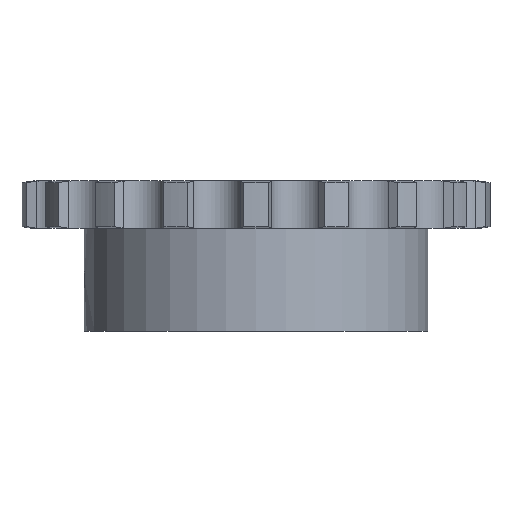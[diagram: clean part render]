
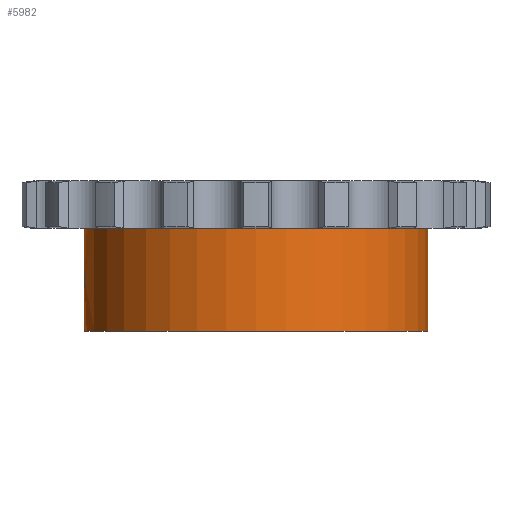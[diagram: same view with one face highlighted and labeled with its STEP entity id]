
A CAD part, front view. The second image highlights one B-rep face of the part: STEP entity #5982.
In plain terms, the highlighted cylindrical face has radius 40 mm (diameter 80 mm), a partial arc.
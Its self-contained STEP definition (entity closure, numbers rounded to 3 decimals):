
#1239=CARTESIAN_POINT('',(0.,0.,-5.55));
#1240=DIRECTION('',(0.,0.,1.));
#1241=DIRECTION('',(-1.,0.,0.));
#1242=AXIS2_PLACEMENT_3D('',#1239,#1240,#1241);
#2880=CARTESIAN_POINT('',(-40.,0.,
-14.5));
#2903=DIRECTION('',(0.,0.,1.));
#2904=VECTOR('',#2903,23.9);
#2905=CARTESIAN_POINT('',(40.,0.,-29.45));
#2906=LINE('',#2905,#2904);
#3024=CARTESIAN_POINT('',(-40.,0.,
-14.5));
#3025=CARTESIAN_POINT('',(-40.,-0.126,
-14.5));
#3026=CARTESIAN_POINT('',(-39.999,-0.405,
-14.517));
#3027=CARTESIAN_POINT('',(-39.992,-0.831,
-14.602));
#3028=CARTESIAN_POINT('',(-39.981,-1.265,
-14.758));
#3029=CARTESIAN_POINT('',(-39.966,-1.669,
-14.976));
#3030=CARTESIAN_POINT('',(-39.949,-2.033,
-15.25));
#3031=CARTESIAN_POINT('',(-39.931,-2.351,
-15.573));
#3032=CARTESIAN_POINT('',(-39.915,-2.617,
-15.94));
#3033=CARTESIAN_POINT('',(-39.9,-2.824,
-16.343));
#3034=CARTESIAN_POINT('',(-39.89,-2.967,
-16.77));
#3035=CARTESIAN_POINT('',(-39.885,-3.036,
-17.159));
#3036=CARTESIAN_POINT('',(-39.884,-3.048,
-17.402));
#3037=CARTESIAN_POINT('',(-39.884,-3.048,
-17.5));
#3042=DIRECTION('',(0.,0.,1.));
#3043=VECTOR('',#3042,8.95);
#3044=CARTESIAN_POINT('',(-40.,0.,
-14.5));
#3045=LINE('',#3044,#3043);
#3049=DIRECTION('',(0.,0.,1.));
#3050=VECTOR('',#3049,8.95);
#3051=CARTESIAN_POINT('',(-40.,0.,-29.45));
#3052=LINE('',#3051,#3050);
#3056=CARTESIAN_POINT('',(-39.884,-3.048,
-17.5));
#3057=CARTESIAN_POINT('',(-39.884,-3.048,
-17.61));
#3058=CARTESIAN_POINT('',(-39.885,-3.034,
-17.864));
#3059=CARTESIAN_POINT('',(-39.89,-2.959,
-18.263));
#3060=CARTESIAN_POINT('',(-39.901,-2.812,
-18.684));
#3061=CARTESIAN_POINT('',(-39.915,-2.603,
-19.082));
#3062=CARTESIAN_POINT('',(-39.932,-2.336,
-19.444));
#3063=CARTESIAN_POINT('',(-39.95,-2.018,
-19.762));
#3064=CARTESIAN_POINT('',(-39.966,-1.655,
-20.032));
#3065=CARTESIAN_POINT('',(-39.981,-1.254,
-20.247));
#3066=CARTESIAN_POINT('',(-39.992,-0.823,
-20.4));
#3067=CARTESIAN_POINT('',(-39.999,-0.401,
-20.483));
#3068=CARTESIAN_POINT('',(-40.,-0.125,
-20.5));
#3069=CARTESIAN_POINT('',(-40.,0.,
-20.5));
#3082=CARTESIAN_POINT('',(0.,0.,-29.45));
#3083=DIRECTION('',(0.,0.,-1.));
#3084=DIRECTION('',(1.,0.,0.));
#3085=AXIS2_PLACEMENT_3D('',#3082,#3083,#3084);
#3447=CARTESIAN_POINT('',(-40.,0.,-29.45));
#3448=CARTESIAN_POINT('',(40.,0.,-29.45));
#3449=VERTEX_POINT('',#3447);
#3450=VERTEX_POINT('',#3448);
#3451=CARTESIAN_POINT('',(40.,0.,-5.55));
#3452=VERTEX_POINT('',#3451);
#3453=CARTESIAN_POINT('',(-40.,0.,-5.55));
#3454=VERTEX_POINT('',#3453);
#3652=VERTEX_POINT('',#2880);
#3655=VERTEX_POINT('',#3037);
#3657=VERTEX_POINT('',#3069);
#5966=CARTESIAN_POINT('',(0.,0.,5.55));
#5967=DIRECTION('',(0.,0.,1.));
#5968=DIRECTION('',(1.,0.,0.));
#5969=AXIS2_PLACEMENT_3D('',#5966,#5967,#5968);
#5970=CYLINDRICAL_SURFACE('',#5969,40.);
#5971=ORIENTED_EDGE('',*,*,#5956,.F.);
#5972=ORIENTED_EDGE('',*,*,#5571,.T.);
#5973=ORIENTED_EDGE('',*,*,#4920,.T.);
#5974=ORIENTED_EDGE('',*,*,#5568,.F.);
#5976=ORIENTED_EDGE('',*,*,#5975,.T.);
#5977=ORIENTED_EDGE('',*,*,#5564,.T.);
#5979=ORIENTED_EDGE('',*,*,#5978,.F.);
#5980=EDGE_LOOP('',(#5971,#5972,#5973,#5974,#5976,#5977,#5979));
#5981=FACE_OUTER_BOUND('',#5980,.F.);
#5982=ADVANCED_FACE('',(#5981),#5970,.T.);
#1243=CIRCLE('',#1242,40.);
#3038=B_SPLINE_CURVE_WITH_KNOTS('',3,(#3024,#3025,#3026,#3027,#3028,#3029,#3030,
#3031,#3032,#3033,#3034,#3035,#3036,#3037),.UNSPECIFIED.,.F.,.F.,(4,1,1,1,1,1,1,
1,1,1,1,4),(0.,0.078,0.174,0.269,
0.364,0.459,0.555,0.65,
0.745,0.84,0.935,1.),.UNSPECIFIED.);
#3070=B_SPLINE_CURVE_WITH_KNOTS('',3,(#3056,#3057,#3058,#3059,#3060,#3061,#3062,
#3063,#3064,#3065,#3066,#3067,#3068,#3069),.UNSPECIFIED.,.F.,.F.,(4,1,1,1,1,1,1,
1,1,1,1,4),(0.,0.073,0.167,0.262,
0.356,0.45,0.545,0.639,
0.734,0.828,0.922,1.),.UNSPECIFIED.);
#3086=CIRCLE('',#3085,40.);
#4920=EDGE_CURVE('',#3454,#3452,#1243,.T.);
#5564=EDGE_CURVE('',#3449,#3657,#3052,.T.);
#5568=EDGE_CURVE('',#3450,#3452,#2906,.T.);
#5571=EDGE_CURVE('',#3652,#3454,#3045,.T.);
#5956=EDGE_CURVE('',#3652,#3655,#3038,.T.);
#5975=EDGE_CURVE('',#3450,#3449,#3086,.T.);
#5978=EDGE_CURVE('',#3655,#3657,#3070,.T.);
